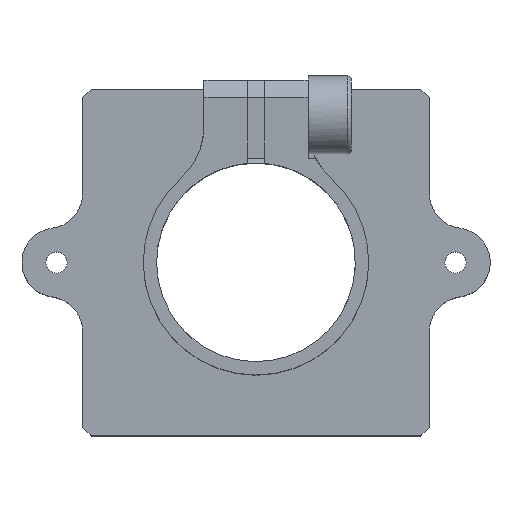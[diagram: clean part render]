
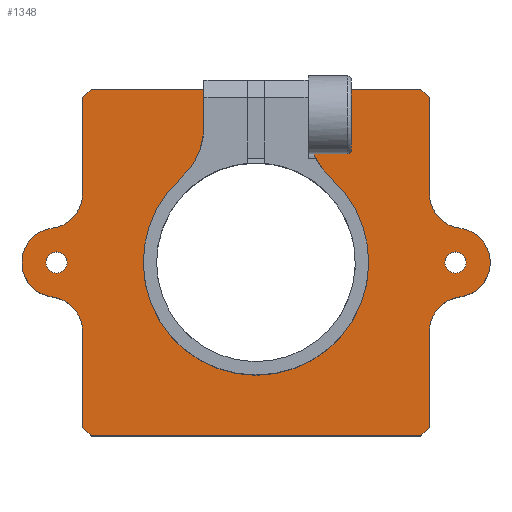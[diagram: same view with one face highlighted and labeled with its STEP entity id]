
A CAD part, top view. The second image highlights one B-rep face of the part: STEP entity #1348.
In plain terms, the highlighted planar face has unit normal (0, 0, 1).
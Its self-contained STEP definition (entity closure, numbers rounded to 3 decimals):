
#30=FACE_BOUND('',#161,.T.);
#31=FACE_BOUND('',#162,.T.);
#38=PLANE('',#1453);
#87=FACE_OUTER_BOUND('',#160,.T.);
#160=EDGE_LOOP('',(#883,#884,#885,#886,#887,#888,#889,#890,#891,#892,#893,
#894,#895,#896,#897,#898,#899,#900,#901,#902,#903,#904));
#161=EDGE_LOOP('',(#905));
#162=EDGE_LOOP('',(#906));
#237=LINE('',#1977,#364);
#238=LINE('',#1979,#365);
#239=LINE('',#1987,#366);
#240=LINE('',#1989,#367);
#241=LINE('',#1991,#368);
#242=LINE('',#1993,#369);
#243=LINE('',#2001,#370);
#244=LINE('',#2003,#371);
#245=LINE('',#2005,#372);
#246=LINE('',#2007,#373);
#247=LINE('',#2015,#374);
#248=LINE('',#2017,#375);
#249=LINE('',#2018,#376);
#364=VECTOR('',#1600,10.);
#365=VECTOR('',#1601,10.);
#366=VECTOR('',#1608,10.);
#367=VECTOR('',#1609,10.);
#368=VECTOR('',#1610,10.);
#369=VECTOR('',#1611,10.);
#370=VECTOR('',#1618,10.);
#371=VECTOR('',#1619,10.);
#372=VECTOR('',#1620,10.);
#373=VECTOR('',#1621,10.);
#374=VECTOR('',#1628,10.);
#375=VECTOR('',#1629,10.);
#376=VECTOR('',#1630,10.);
#496=CIRCLE('',#1454,2.);
#497=CIRCLE('',#1455,2.);
#498=CIRCLE('',#1456,2.);
#499=CIRCLE('',#1457,4.);
#500=CIRCLE('',#1458,6.5);
#501=CIRCLE('',#1459,4.);
#502=CIRCLE('',#1460,2.);
#503=CIRCLE('',#1461,2.);
#504=CIRCLE('',#1462,2.);
#505=CIRCLE('',#1463,0.611);
#506=CIRCLE('',#1464,0.611);
#550=VERTEX_POINT('',#1975);
#551=VERTEX_POINT('',#1976);
#552=VERTEX_POINT('',#1978);
#553=VERTEX_POINT('',#1980);
#554=VERTEX_POINT('',#1982);
#555=VERTEX_POINT('',#1984);
#556=VERTEX_POINT('',#1986);
#557=VERTEX_POINT('',#1988);
#558=VERTEX_POINT('',#1990);
#559=VERTEX_POINT('',#1992);
#560=VERTEX_POINT('',#1994);
#561=VERTEX_POINT('',#1996);
#562=VERTEX_POINT('',#1998);
#563=VERTEX_POINT('',#2000);
#564=VERTEX_POINT('',#2002);
#565=VERTEX_POINT('',#2004);
#566=VERTEX_POINT('',#2006);
#567=VERTEX_POINT('',#2008);
#568=VERTEX_POINT('',#2010);
#569=VERTEX_POINT('',#2012);
#570=VERTEX_POINT('',#2014);
#571=VERTEX_POINT('',#2016);
#572=VERTEX_POINT('',#2019);
#573=VERTEX_POINT('',#2021);
#679=EDGE_CURVE('',#550,#551,#237,.T.);
#680=EDGE_CURVE('',#550,#552,#238,.T.);
#681=EDGE_CURVE('',#552,#553,#496,.T.);
#682=EDGE_CURVE('',#553,#554,#497,.T.);
#683=EDGE_CURVE('',#554,#555,#498,.T.);
#684=EDGE_CURVE('',#555,#556,#239,.T.);
#685=EDGE_CURVE('',#557,#556,#240,.T.);
#686=EDGE_CURVE('',#557,#558,#241,.T.);
#687=EDGE_CURVE('',#558,#559,#242,.T.);
#688=EDGE_CURVE('',#559,#560,#499,.T.);
#689=EDGE_CURVE('',#560,#561,#500,.T.);
#690=EDGE_CURVE('',#561,#562,#501,.T.);
#691=EDGE_CURVE('',#562,#563,#243,.T.);
#692=EDGE_CURVE('',#563,#564,#244,.T.);
#693=EDGE_CURVE('',#565,#564,#245,.T.);
#694=EDGE_CURVE('',#565,#566,#246,.T.);
#695=EDGE_CURVE('',#566,#567,#502,.T.);
#696=EDGE_CURVE('',#567,#568,#503,.T.);
#697=EDGE_CURVE('',#568,#569,#504,.T.);
#698=EDGE_CURVE('',#569,#570,#247,.T.);
#699=EDGE_CURVE('',#571,#570,#248,.T.);
#700=EDGE_CURVE('',#571,#551,#249,.T.);
#701=EDGE_CURVE('',#572,#572,#505,.T.);
#702=EDGE_CURVE('',#573,#573,#506,.T.);
#883=ORIENTED_EDGE('',*,*,#679,.F.);
#884=ORIENTED_EDGE('',*,*,#680,.T.);
#885=ORIENTED_EDGE('',*,*,#681,.T.);
#886=ORIENTED_EDGE('',*,*,#682,.T.);
#887=ORIENTED_EDGE('',*,*,#683,.T.);
#888=ORIENTED_EDGE('',*,*,#684,.T.);
#889=ORIENTED_EDGE('',*,*,#685,.F.);
#890=ORIENTED_EDGE('',*,*,#686,.T.);
#891=ORIENTED_EDGE('',*,*,#687,.T.);
#892=ORIENTED_EDGE('',*,*,#688,.T.);
#893=ORIENTED_EDGE('',*,*,#689,.T.);
#894=ORIENTED_EDGE('',*,*,#690,.T.);
#895=ORIENTED_EDGE('',*,*,#691,.T.);
#896=ORIENTED_EDGE('',*,*,#692,.T.);
#897=ORIENTED_EDGE('',*,*,#693,.F.);
#898=ORIENTED_EDGE('',*,*,#694,.T.);
#899=ORIENTED_EDGE('',*,*,#695,.T.);
#900=ORIENTED_EDGE('',*,*,#696,.T.);
#901=ORIENTED_EDGE('',*,*,#697,.T.);
#902=ORIENTED_EDGE('',*,*,#698,.T.);
#903=ORIENTED_EDGE('',*,*,#699,.F.);
#904=ORIENTED_EDGE('',*,*,#700,.T.);
#905=ORIENTED_EDGE('',*,*,#701,.T.);
#906=ORIENTED_EDGE('',*,*,#702,.T.);
#1348=ADVANCED_FACE('',(#87,#30,#31),#38,.T.);
#1453=AXIS2_PLACEMENT_3D('',#1974,#1598,#1599);
#1454=AXIS2_PLACEMENT_3D('',#1981,#1602,#1603);
#1455=AXIS2_PLACEMENT_3D('',#1983,#1604,#1605);
#1456=AXIS2_PLACEMENT_3D('',#1985,#1606,#1607);
#1457=AXIS2_PLACEMENT_3D('',#1995,#1612,#1613);
#1458=AXIS2_PLACEMENT_3D('',#1997,#1614,#1615);
#1459=AXIS2_PLACEMENT_3D('',#1999,#1616,#1617);
#1460=AXIS2_PLACEMENT_3D('',#2009,#1622,#1623);
#1461=AXIS2_PLACEMENT_3D('',#2011,#1624,#1625);
#1462=AXIS2_PLACEMENT_3D('',#2013,#1626,#1627);
#1463=AXIS2_PLACEMENT_3D('',#2020,#1631,#1632);
#1464=AXIS2_PLACEMENT_3D('',#2022,#1633,#1634);
#1598=DIRECTION('center_axis',(0.,0.,1.));
#1599=DIRECTION('ref_axis',(1.,0.,0.));
#1600=DIRECTION('',(-0.707,-0.707,0.));
#1601=DIRECTION('',(0.,1.,0.));
#1602=DIRECTION('center_axis',(0.,0.,-1.));
#1603=DIRECTION('ref_axis',(0.125,-0.992,0.));
#1604=DIRECTION('center_axis',(0.,0.,1.));
#1605=DIRECTION('ref_axis',(0.125,-0.992,0.));
#1606=DIRECTION('center_axis',(0.,0.,-1.));
#1607=DIRECTION('ref_axis',(1.,0.,0.));
#1608=DIRECTION('',(0.,1.,0.));
#1609=DIRECTION('',(0.707,-0.707,0.));
#1610=DIRECTION('',(-1.,0.,0.));
#1611=DIRECTION('',(0.,-1.,0.));
#1612=DIRECTION('center_axis',(0.,0.,1.));
#1613=DIRECTION('ref_axis',(-1.,0.,0.));
#1614=DIRECTION('center_axis',(0.,0.,-1.));
#1615=DIRECTION('ref_axis',(0.667,-0.745,0.));
#1616=DIRECTION('center_axis',(0.,0.,1.));
#1617=DIRECTION('ref_axis',(0.667,-0.745,0.));
#1618=DIRECTION('',(0.,1.,0.));
#1619=DIRECTION('',(-1.,0.,0.));
#1620=DIRECTION('',(0.707,0.707,0.));
#1621=DIRECTION('',(0.,-1.,0.));
#1622=DIRECTION('center_axis',(0.,0.,-1.));
#1623=DIRECTION('ref_axis',(-0.125,0.992,0.));
#1624=DIRECTION('center_axis',(0.,0.,1.));
#1625=DIRECTION('ref_axis',(-0.125,0.992,0.));
#1626=DIRECTION('center_axis',(0.,0.,-1.));
#1627=DIRECTION('ref_axis',(-1.,0.,0.));
#1628=DIRECTION('',(0.,-1.,0.));
#1629=DIRECTION('',(-0.707,0.707,0.));
#1630=DIRECTION('',(1.,0.,0.));
#1631=DIRECTION('center_axis',(0.,0.,-1.));
#1632=DIRECTION('ref_axis',(1.,0.,0.));
#1633=DIRECTION('center_axis',(0.,0.,-1.));
#1634=DIRECTION('ref_axis',(1.,0.,0.));
#1974=CARTESIAN_POINT('Origin',(0.,0.,4.5));
#1975=CARTESIAN_POINT('',(10.,-9.5,4.5));
#1976=CARTESIAN_POINT('',(9.5,-10.,4.5));
#1977=CARTESIAN_POINT('',(9.75,-9.75,4.5));
#1978=CARTESIAN_POINT('',(10.,-3.969,4.5));
#1979=CARTESIAN_POINT('',(10.,-10.,4.5));
#1980=CARTESIAN_POINT('',(11.75,-1.984,4.5));
#1981=CARTESIAN_POINT('Origin',(12.,-3.969,4.5));
#1982=CARTESIAN_POINT('',(11.75,1.984,4.5));
#1983=CARTESIAN_POINT('Origin',(11.5,0.,4.5));
#1984=CARTESIAN_POINT('',(10.,3.969,4.5));
#1985=CARTESIAN_POINT('Origin',(12.,3.969,4.5));
#1986=CARTESIAN_POINT('',(10.,9.5,4.5));
#1987=CARTESIAN_POINT('',(10.,-10.,4.5));
#1988=CARTESIAN_POINT('',(9.5,10.,4.5));
#1989=CARTESIAN_POINT('',(9.75,9.75,4.5));
#1990=CARTESIAN_POINT('',(3.,10.,4.5));
#1991=CARTESIAN_POINT('',(10.,10.,4.5));
#1992=CARTESIAN_POINT('',(3.,7.826,4.5));
#1993=CARTESIAN_POINT('',(3.,3.913,4.5));
#1994=CARTESIAN_POINT('',(4.333,4.845,4.5));
#1995=CARTESIAN_POINT('Origin',(7.,7.826,4.5));
#1996=CARTESIAN_POINT('',(-4.333,4.845,4.5));
#1997=CARTESIAN_POINT('Origin',(0.,0.,4.5));
#1998=CARTESIAN_POINT('',(-3.,7.826,4.5));
#1999=CARTESIAN_POINT('Origin',(-7.,7.826,4.5));
#2000=CARTESIAN_POINT('',(-3.,10.,4.5));
#2001=CARTESIAN_POINT('',(-3.,5.25,4.5));
#2002=CARTESIAN_POINT('',(-9.5,10.,4.5));
#2003=CARTESIAN_POINT('',(10.,10.,4.5));
#2004=CARTESIAN_POINT('',(-10.,9.5,4.5));
#2005=CARTESIAN_POINT('',(-9.75,9.75,4.5));
#2006=CARTESIAN_POINT('',(-10.,3.969,4.5));
#2007=CARTESIAN_POINT('',(-10.,10.,4.5));
#2008=CARTESIAN_POINT('',(-11.75,1.984,4.5));
#2009=CARTESIAN_POINT('Origin',(-12.,3.969,4.5));
#2010=CARTESIAN_POINT('',(-11.75,-1.984,4.5));
#2011=CARTESIAN_POINT('Origin',(-11.5,0.,4.5));
#2012=CARTESIAN_POINT('',(-10.,-3.969,4.5));
#2013=CARTESIAN_POINT('Origin',(-12.,-3.969,4.5));
#2014=CARTESIAN_POINT('',(-10.,-9.5,4.5));
#2015=CARTESIAN_POINT('',(-10.,10.,4.5));
#2016=CARTESIAN_POINT('',(-9.5,-10.,4.5));
#2017=CARTESIAN_POINT('',(-9.75,-9.75,4.5));
#2018=CARTESIAN_POINT('',(-10.,-10.,4.5));
#2019=CARTESIAN_POINT('',(-12.111,0.,4.5));
#2020=CARTESIAN_POINT('Origin',(-11.5,0.,4.5));
#2021=CARTESIAN_POINT('',(10.89,0.,4.5));
#2022=CARTESIAN_POINT('Origin',(11.5,0.,4.5));
